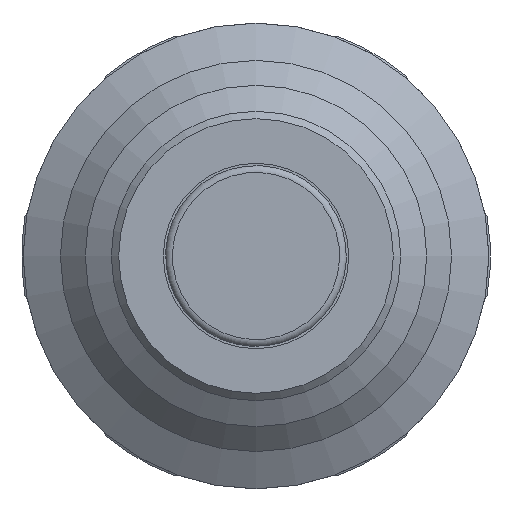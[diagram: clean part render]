
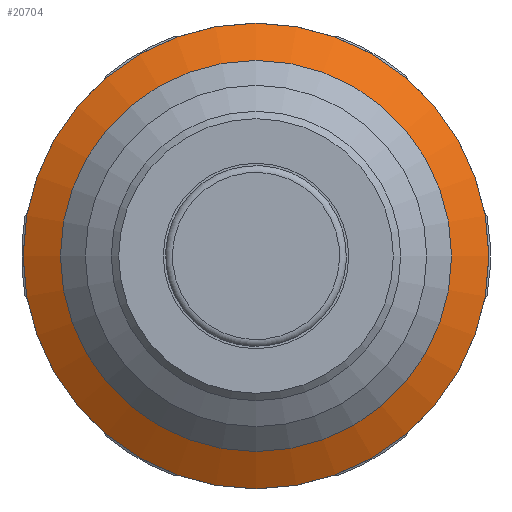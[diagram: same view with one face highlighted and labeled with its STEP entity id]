
A CAD part, front view. The second image highlights one B-rep face of the part: STEP entity #20704.
In plain terms, the highlighted conical face has half-angle 60 degrees and reference radius 14.623 mm.
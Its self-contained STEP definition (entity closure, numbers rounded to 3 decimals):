
#24=CONICAL_SURFACE('',#21693,14.623,1.047);
#3020=LINE('',#37483,#4215);
#4215=VECTOR('',#23684,14.623);
#6559=FACE_OUTER_BOUND('',#7682,.T.);
#7682=EDGE_LOOP('',(#17274,#17275,#17276,#17277,#17278));
#8400=CIRCLE('',#21694,13.35);
#8401=CIRCLE('',#21695,13.35);
#8402=CIRCLE('',#21696,15.896);
#9708=VERTEX_POINT('',#37478);
#9709=VERTEX_POINT('',#37479);
#9710=VERTEX_POINT('',#37482);
#12369=EDGE_CURVE('',#9708,#9709,#8400,.T.);
#12370=EDGE_CURVE('',#9709,#9708,#8401,.T.);
#12371=EDGE_CURVE('',#9708,#9710,#3020,.T.);
#12372=EDGE_CURVE('',#9710,#9710,#8402,.T.);
#17274=ORIENTED_EDGE('',*,*,#12369,.T.);
#17275=ORIENTED_EDGE('',*,*,#12370,.T.);
#17276=ORIENTED_EDGE('',*,*,#12371,.T.);
#17277=ORIENTED_EDGE('',*,*,#12372,.T.);
#17278=ORIENTED_EDGE('',*,*,#12371,.F.);
#20704=ADVANCED_FACE('',(#6559),#24,.T.);
#21693=AXIS2_PLACEMENT_3D('',#37477,#23678,#23679);
#21694=AXIS2_PLACEMENT_3D('',#37480,#23680,#23681);
#21695=AXIS2_PLACEMENT_3D('',#37481,#23682,#23683);
#21696=AXIS2_PLACEMENT_3D('',#37484,#23685,#23686);
#23678=DIRECTION('center_axis',(0.,1.,0.));
#23679=DIRECTION('ref_axis',(-1.,0.,0.));
#23680=DIRECTION('center_axis',(0.,1.,0.));
#23681=DIRECTION('ref_axis',(-1.,0.,0.));
#23682=DIRECTION('center_axis',(0.,1.,0.));
#23683=DIRECTION('ref_axis',(-1.,0.,0.));
#23684=DIRECTION('',(0.866,0.5,0.));
#23685=DIRECTION('center_axis',(0.,-1.,0.));
#23686=DIRECTION('ref_axis',(-1.,0.,0.));
#37477=CARTESIAN_POINT('Origin',(0.,13.52,0.));
#37478=CARTESIAN_POINT('',(13.35,12.785,0.));
#37479=CARTESIAN_POINT('',(-13.35,12.785,0.));
#37480=CARTESIAN_POINT('Origin',(0.,12.785,0.));
#37481=CARTESIAN_POINT('Origin',(0.,12.785,0.));
#37482=CARTESIAN_POINT('',(15.896,14.255,0.));
#37483=CARTESIAN_POINT('',(14.623,13.52,0.));
#37484=CARTESIAN_POINT('Origin',(0.,14.255,0.));
